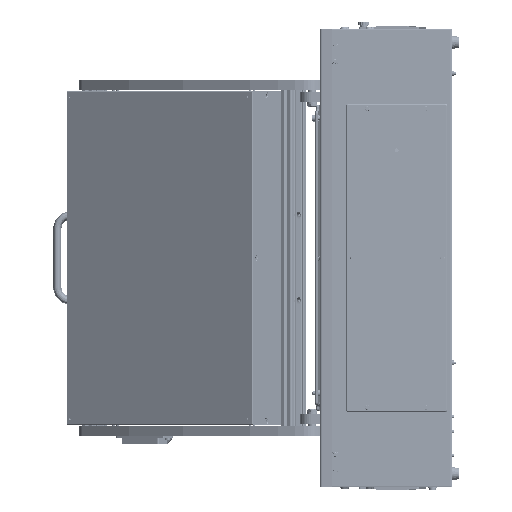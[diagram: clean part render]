
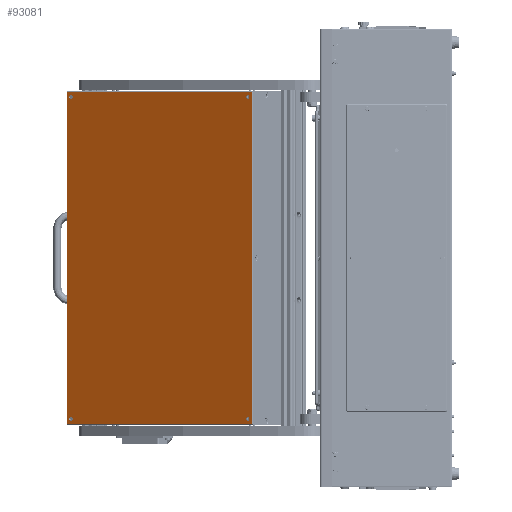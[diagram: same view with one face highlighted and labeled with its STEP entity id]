
A CAD part, left-side view. The second image highlights one B-rep face of the part: STEP entity #93081.
In plain terms, the highlighted planar face has unit normal (-0.819, 0.574, 0) as drawn and (0, -1, 0) by its records, which use the part's own axes.
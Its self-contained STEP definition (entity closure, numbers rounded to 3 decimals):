
#315 = DIRECTION ( 'NONE',  ( 0., -1., 0. ) ) ;
#2009 = CARTESIAN_POINT ( 'NONE',  ( 169., 0., 251. ) ) ;
#6712 = EDGE_CURVE ( 'NONE', #212821, #100800, #42377, .T. ) ;
#6840 = DIRECTION ( 'NONE',  ( 0., 0., -1. ) ) ;
#7485 = DIRECTION ( 'NONE',  ( -1., 0., 0. ) ) ;
#8031 = CARTESIAN_POINT ( 'NONE',  ( 162., 0., 245.15 ) ) ;
#14047 = DIRECTION ( 'NONE',  ( 0., 0., -1. ) ) ;
#14232 = CIRCLE ( 'NONE', #230576, 3.15 ) ;
#16543 = VECTOR ( 'NONE', #7485, 1000. ) ;
#16757 = VERTEX_POINT ( 'NONE', #148673 ) ;
#19265 = VERTEX_POINT ( 'NONE', #237803 ) ;
#21328 = AXIS2_PLACEMENT_3D ( 'NONE', #69893, #32044, #159532 ) ;
#21959 = CIRCLE ( 'NONE', #234024, 3.15 ) ;
#22163 = EDGE_CURVE ( 'NONE', #55010, #27399, #55669, .T. ) ;
#24787 = AXIS2_PLACEMENT_3D ( 'NONE', #66626, #234464, #158609 ) ;
#27228 = DIRECTION ( 'NONE',  ( 0., 0., -1. ) ) ;
#27399 = VERTEX_POINT ( 'NONE', #132652 ) ;
#29214 = DIRECTION ( 'NONE',  ( 0., 0., -1. ) ) ;
#32044 = DIRECTION ( 'NONE',  ( 0., -1., 0. ) ) ;
#32534 = VERTEX_POINT ( 'NONE', #8031 ) ;
#33460 = CIRCLE ( 'NONE', #68823, 3.15 ) ;
#34586 = EDGE_CURVE ( 'NONE', #108272, #32534, #33460, .T. ) ;
#35118 = EDGE_LOOP ( 'NONE', ( #111171, #42996 ) ) ;
#36984 = EDGE_LOOP ( 'NONE', ( #140357, #62070 ) ) ;
#37515 = DIRECTION ( 'NONE',  ( 0., 0., 1. ) ) ;
#41574 = DIRECTION ( 'NONE',  ( 0., -1., 0. ) ) ;
#42377 = LINE ( 'NONE', #118004, #16543 ) ;
#42996 = ORIENTED_EDGE ( 'NONE', *, *, #166633, .F. ) ;
#48065 = FACE_BOUND ( 'NONE', #35118, .T. ) ;
#50610 = VECTOR ( 'NONE', #102802, 1000. ) ;
#53792 = LINE ( 'NONE', #189767, #189558 ) ;
#55010 = VERTEX_POINT ( 'NONE', #64937 ) ;
#55152 = ORIENTED_EDGE ( 'NONE', *, *, #199088, .F. ) ;
#55669 = CIRCLE ( 'NONE', #66393, 3.15 ) ;
#57540 = EDGE_CURVE ( 'NONE', #107690, #19265, #130553, .T. ) ;
#62070 = ORIENTED_EDGE ( 'NONE', *, *, #115061, .F. ) ;
#64099 = CARTESIAN_POINT ( 'NONE',  ( -169., 0., -251. ) ) ;
#64937 = CARTESIAN_POINT ( 'NONE',  ( 162., 0., -238.85 ) ) ;
#66393 = AXIS2_PLACEMENT_3D ( 'NONE', #152700, #171321, #208442 ) ;
#66626 = CARTESIAN_POINT ( 'NONE',  ( 0., 0., 0. ) ) ;
#68823 = AXIS2_PLACEMENT_3D ( 'NONE', #82079, #137652, #27228 ) ;
#69554 = AXIS2_PLACEMENT_3D ( 'NONE', #95438, #315, #187523 ) ;
#69893 = CARTESIAN_POINT ( 'NONE',  ( -162., 0., 242. ) ) ;
#73114 = ORIENTED_EDGE ( 'NONE', *, *, #83340, .F. ) ;
#82079 = CARTESIAN_POINT ( 'NONE',  ( 162., 0., 242. ) ) ;
#83340 = EDGE_CURVE ( 'NONE', #140203, #133348, #236862, .T. ) ;
#85203 = PLANE ( 'NONE',  #24787 ) ;
#88549 = CARTESIAN_POINT ( 'NONE',  ( -162., 0., -242. ) ) ;
#93081 = ADVANCED_FACE ( 'NONE', ( #94151, #154742, #105672, #48065, #152003 ), #85203, .T. ) ;
#94151 = FACE_BOUND ( 'NONE', #123182, .T. ) ;
#95438 = CARTESIAN_POINT ( 'NONE',  ( 162., 0., -242. ) ) ;
#95510 = VERTEX_POINT ( 'NONE', #213165 ) ;
#100800 = VERTEX_POINT ( 'NONE', #131302 ) ;
#102802 = DIRECTION ( 'NONE',  ( 0., 0., -1. ) ) ;
#104384 = CARTESIAN_POINT ( 'NONE',  ( -162., 0., -242. ) ) ;
#105672 = FACE_BOUND ( 'NONE', #36984, .T. ) ;
#107690 = VERTEX_POINT ( 'NONE', #151956 ) ;
#108272 = VERTEX_POINT ( 'NONE', #166305 ) ;
#111171 = ORIENTED_EDGE ( 'NONE', *, *, #57540, .F. ) ;
#111233 = LINE ( 'NONE', #64099, #50610 ) ;
#115061 = EDGE_CURVE ( 'NONE', #32534, #108272, #166095, .T. ) ;
#116086 = CARTESIAN_POINT ( 'NONE',  ( 169., 0., 249. ) ) ;
#118004 = CARTESIAN_POINT ( 'NONE',  ( -171., 0., 249. ) ) ;
#123182 = EDGE_LOOP ( 'NONE', ( #73114, #55152 ) ) ;
#124958 = VECTOR ( 'NONE', #37515, 1000. ) ;
#125076 = EDGE_CURVE ( 'NONE', #95510, #212821, #180009, .T. ) ;
#126473 = AXIS2_PLACEMENT_3D ( 'NONE', #88549, #144158, #184602 ) ;
#128438 = ORIENTED_EDGE ( 'NONE', *, *, #6712, .T. ) ;
#130553 = CIRCLE ( 'NONE', #21328, 3.15 ) ;
#131302 = CARTESIAN_POINT ( 'NONE',  ( -169., 0., 249. ) ) ;
#132652 = CARTESIAN_POINT ( 'NONE',  ( 162., 0., -245.15 ) ) ;
#133348 = VERTEX_POINT ( 'NONE', #211081 ) ;
#137652 = DIRECTION ( 'NONE',  ( 0., -1., 0. ) ) ;
#139673 = CARTESIAN_POINT ( 'NONE',  ( 162., 0., 242. ) ) ;
#140203 = VERTEX_POINT ( 'NONE', #239191 ) ;
#140357 = ORIENTED_EDGE ( 'NONE', *, *, #34586, .F. ) ;
#143491 = ORIENTED_EDGE ( 'NONE', *, *, #163888, .F. ) ;
#143864 = DIRECTION ( 'NONE',  ( 0., -1., 0. ) ) ;
#144158 = DIRECTION ( 'NONE',  ( 0., -1., 0. ) ) ;
#148673 = CARTESIAN_POINT ( 'NONE',  ( -169., 0., -249. ) ) ;
#151298 = CARTESIAN_POINT ( 'NONE',  ( -162., 0., 242. ) ) ;
#151956 = CARTESIAN_POINT ( 'NONE',  ( -162., 0., 238.85 ) ) ;
#152003 = FACE_OUTER_BOUND ( 'NONE', #155666, .T. ) ;
#152700 = CARTESIAN_POINT ( 'NONE',  ( 162., 0., -242. ) ) ;
#154742 = FACE_BOUND ( 'NONE', #235617, .T. ) ;
#155666 = EDGE_LOOP ( 'NONE', ( #180815, #214523, #217880, #128438 ) ) ;
#158609 = DIRECTION ( 'NONE',  ( 0., 0., -1. ) ) ;
#159532 = DIRECTION ( 'NONE',  ( 0., 0., -1. ) ) ;
#163888 = EDGE_CURVE ( 'NONE', #27399, #55010, #205214, .T. ) ;
#166095 = CIRCLE ( 'NONE', #237558, 3.15 ) ;
#166305 = CARTESIAN_POINT ( 'NONE',  ( 162., 0., 238.85 ) ) ;
#166633 = EDGE_CURVE ( 'NONE', #19265, #107690, #21959, .T. ) ;
#169515 = DIRECTION ( 'NONE',  ( 1., 0., 0. ) ) ;
#171054 = EDGE_CURVE ( 'NONE', #16757, #95510, #53792, .T. ) ;
#171321 = DIRECTION ( 'NONE',  ( 0., -1., 0. ) ) ;
#180009 = LINE ( 'NONE', #2009, #124958 ) ;
#180815 = ORIENTED_EDGE ( 'NONE', *, *, #230745, .T. ) ;
#184602 = DIRECTION ( 'NONE',  ( 0., 0., -1. ) ) ;
#187523 = DIRECTION ( 'NONE',  ( 0., 0., -1. ) ) ;
#189558 = VECTOR ( 'NONE', #169515, 1000. ) ;
#189767 = CARTESIAN_POINT ( 'NONE',  ( 171., 0., -249. ) ) ;
#196207 = DIRECTION ( 'NONE',  ( 0., -1., 0. ) ) ;
#199088 = EDGE_CURVE ( 'NONE', #133348, #140203, #14232, .T. ) ;
#205214 = CIRCLE ( 'NONE', #69554, 3.15 ) ;
#208442 = DIRECTION ( 'NONE',  ( 0., 0., -1. ) ) ;
#211081 = CARTESIAN_POINT ( 'NONE',  ( -162., 0., -238.85 ) ) ;
#212821 = VERTEX_POINT ( 'NONE', #116086 ) ;
#213165 = CARTESIAN_POINT ( 'NONE',  ( 169., 0., -249. ) ) ;
#214523 = ORIENTED_EDGE ( 'NONE', *, *, #171054, .T. ) ;
#217880 = ORIENTED_EDGE ( 'NONE', *, *, #125076, .T. ) ;
#218395 = ORIENTED_EDGE ( 'NONE', *, *, #22163, .F. ) ;
#230576 = AXIS2_PLACEMENT_3D ( 'NONE', #104384, #143864, #14047 ) ;
#230745 = EDGE_CURVE ( 'NONE', #100800, #16757, #111233, .T. ) ;
#234024 = AXIS2_PLACEMENT_3D ( 'NONE', #151298, #41574, #6840 ) ;
#234464 = DIRECTION ( 'NONE',  ( 0., -1., 0. ) ) ;
#235617 = EDGE_LOOP ( 'NONE', ( #143491, #218395 ) ) ;
#236862 = CIRCLE ( 'NONE', #126473, 3.15 ) ;
#237558 = AXIS2_PLACEMENT_3D ( 'NONE', #139673, #196207, #29214 ) ;
#237803 = CARTESIAN_POINT ( 'NONE',  ( -162., 0., 245.15 ) ) ;
#239191 = CARTESIAN_POINT ( 'NONE',  ( -162., 0., -245.15 ) ) ;
